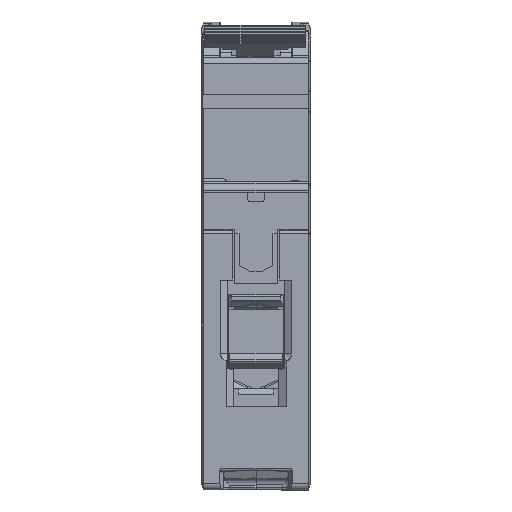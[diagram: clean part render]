
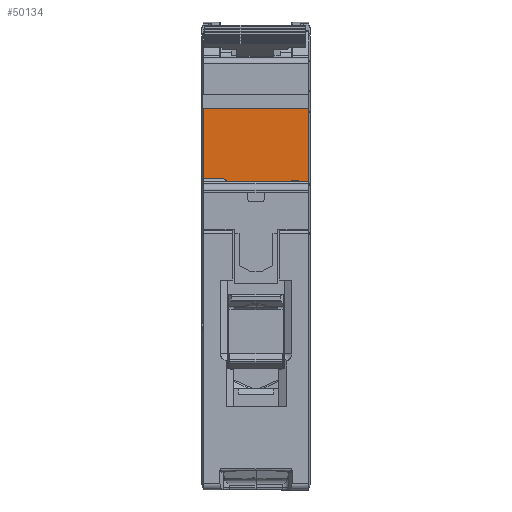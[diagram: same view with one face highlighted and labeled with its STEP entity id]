
A CAD part, front view. The second image highlights one B-rep face of the part: STEP entity #50134.
In plain terms, the highlighted planar face has unit normal (0, -1, 0).
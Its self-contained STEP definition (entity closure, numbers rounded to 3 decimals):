
#8226 = EDGE_CURVE ( 'NONE', #95120, #95126, #11020, .T. ) ;
#8237 = EDGE_CURVE ( 'NONE', #95147, #95150, #11080, .T. ) ;
#8243 = EDGE_CURVE ( 'NONE', #95150, #95117, #11130, .T. ) ;
#8245 = EDGE_CURVE ( 'NONE', #95117, #95168, #11142, .T. ) ;
#8246 = EDGE_CURVE ( 'NONE', #95168, #95159, #11183, .T. ) ;
#8251 = EDGE_CURVE ( 'NONE', #95126, #95186, #11215, .T. ) ;
#11020 = LINE ( 'NONE', #11024, #93108 ) ;
#11024 = CARTESIAN_POINT ( 'NONE',  ( -3.9, -7.255, 43.9 ) ) ;
#11026 = DIRECTION ( 'NONE',  ( 0.707, 0., 0.707 ) ) ;
#11080 = LINE ( 'NONE', #11083, #93109 ) ;
#11083 = CARTESIAN_POINT ( 'NONE',  ( 0.2, -7.255, 55.8 ) ) ;
#11085 = DIRECTION ( 'NONE',  ( -1., 0., 0. ) ) ;
#11130 = LINE ( 'NONE', #11134, #92801 ) ;
#11134 = CARTESIAN_POINT ( 'NONE',  ( -17.2, -7.255, 43.9 ) ) ;
#11136 = DIRECTION ( 'NONE',  ( 0., 0., -1. ) ) ;
#11142 = LINE ( 'NONE', #11176, #92894 ) ;
#11176 = CARTESIAN_POINT ( 'NONE',  ( 0.2, -7.255, 44.4 ) ) ;
#11181 = DIRECTION ( 'NONE',  ( 1., 0., 0. ) ) ;
#11183 = LINE ( 'NONE', #11186, #93113 ) ;
#11186 = CARTESIAN_POINT ( 'NONE',  ( -13.8, -7.255, 44.4 ) ) ;
#11187 = DIRECTION ( 'NONE',  ( 0.707, 0., -0.707 ) ) ;
#11215 = LINE ( 'NONE', #11218, #92915 ) ;
#11218 = CARTESIAN_POINT ( 'NONE',  ( 0.2, -7.255, 43.9 ) ) ;
#11220 = DIRECTION ( 'NONE',  ( 1., 0., 0. ) ) ;
#32628 = LINE ( 'NONE', #32631, #58904 ) ;
#32631 = CARTESIAN_POINT ( 'NONE',  ( -12.9, -7.255, 43.9 ) ) ;
#32633 = DIRECTION ( 'NONE',  ( 0., 0., -1. ) ) ;
#32721 = LINE ( 'NONE', #32755, #58938 ) ;
#32755 = CARTESIAN_POINT ( 'NONE',  ( -4.3, -7.255, 43.9 ) ) ;
#32759 = DIRECTION ( 'NONE',  ( 0., 0., 1. ) ) ;
#32775 = LINE ( 'NONE', #32778, #58949 ) ;
#32778 = CARTESIAN_POINT ( 'NONE',  ( 0., -7.255, 0. ) ) ;
#32780 = DIRECTION ( 'NONE',  ( 0., 0., -1. ) ) ;
#32782 = LINE ( 'NONE', #32785, #58951 ) ;
#32785 = CARTESIAN_POINT ( 'NONE',  ( 0.2, -7.255, 42.9 ) ) ;
#32787 = DIRECTION ( 'NONE',  ( -1., 0., 0. ) ) ;
#33027 = EDGE_LOOP ( 'NONE', ( #44939, #44941, #44943, #44945, #44947, #44949, #44951, #44952, #44954, #44956 ) ) ;
#33637 = VERTEX_POINT ( 'NONE', #48300 ) ;
#33644 = VERTEX_POINT ( 'NONE', #48307 ) ;
#44939 = ORIENTED_EDGE ( 'NONE', *, *, #8251, .T. ) ;
#44941 = ORIENTED_EDGE ( 'NONE', *, *, #47274, .F. ) ;
#44943 = ORIENTED_EDGE ( 'NONE', *, *, #8237, .T. ) ;
#44945 = ORIENTED_EDGE ( 'NONE', *, *, #8243, .T. ) ;
#44947 = ORIENTED_EDGE ( 'NONE', *, *, #8245, .T. ) ;
#44949 = ORIENTED_EDGE ( 'NONE', *, *, #8246, .T. ) ;
#44951 = ORIENTED_EDGE ( 'NONE', *, *, #47237, .T. ) ;
#44952 = ORIENTED_EDGE ( 'NONE', *, *, #47276, .F. ) ;
#44954 = ORIENTED_EDGE ( 'NONE', *, *, #47269, .T. ) ;
#44956 = ORIENTED_EDGE ( 'NONE', *, *, #8226, .T. ) ;
#47237 = EDGE_CURVE ( 'NONE', #95159, #33644, #32628, .T. ) ;
#47269 = EDGE_CURVE ( 'NONE', #33637, #95120, #32721, .T. ) ;
#47274 = EDGE_CURVE ( 'NONE', #95147, #95186, #32775, .T. ) ;
#47276 = EDGE_CURVE ( 'NONE', #33637, #33644, #32782, .T. ) ;
#48300 = CARTESIAN_POINT ( 'NONE',  ( -4.3, -7.255, 42.9 ) ) ;
#48307 = CARTESIAN_POINT ( 'NONE',  ( -12.9, -7.255, 42.9 ) ) ;
#50134 = ADVANCED_FACE ( 'NONE', ( #78295 ), #78280, .T. ) ;
#58904 = VECTOR ( 'NONE', #32633, 1000. ) ;
#58938 = VECTOR ( 'NONE', #32759, 1000. ) ;
#58949 = VECTOR ( 'NONE', #32780, 1000. ) ;
#58951 = VECTOR ( 'NONE', #32787, 1000. ) ;
#77067 = AXIS2_PLACEMENT_3D ( 'NONE', #78305, #78306, #78307 ) ;
#78280 = PLANE ( 'NONE',  #77067 ) ;
#78295 = FACE_OUTER_BOUND ( 'NONE', #33027, .T. ) ;
#78305 = CARTESIAN_POINT ( 'NONE',  ( 0.2, -7.255, 43.9 ) ) ;
#78306 = DIRECTION ( 'NONE',  ( 0., -1., 0. ) ) ;
#78307 = DIRECTION ( 'NONE',  ( 1., 0., 0. ) ) ;
#80124 = CARTESIAN_POINT ( 'NONE',  ( -17.2, -7.255, 44.4 ) ) ;
#80125 = CARTESIAN_POINT ( 'NONE',  ( -4.3, -7.255, 43.5 ) ) ;
#80127 = CARTESIAN_POINT ( 'NONE',  ( -3.9, -7.255, 43.9 ) ) ;
#80134 = CARTESIAN_POINT ( 'NONE',  ( 0., -7.255, 55.8 ) ) ;
#80135 = CARTESIAN_POINT ( 'NONE',  ( -17.2, -7.255, 55.8 ) ) ;
#80138 = CARTESIAN_POINT ( 'NONE',  ( -12.9, -7.255, 43.5 ) ) ;
#80141 = CARTESIAN_POINT ( 'NONE',  ( -13.8, -7.255, 44.4 ) ) ;
#80142 = CARTESIAN_POINT ( 'NONE',  ( 0., -7.255, 43.9 ) ) ;
#92801 = VECTOR ( 'NONE', #11136, 1000. ) ;
#92894 = VECTOR ( 'NONE', #11181, 1000. ) ;
#92915 = VECTOR ( 'NONE', #11220, 1000. ) ;
#93108 = VECTOR ( 'NONE', #11026, 1000. ) ;
#93109 = VECTOR ( 'NONE', #11085, 1000. ) ;
#93113 = VECTOR ( 'NONE', #11187, 1000. ) ;
#95117 = VERTEX_POINT ( 'NONE', #80124 ) ;
#95120 = VERTEX_POINT ( 'NONE', #80125 ) ;
#95126 = VERTEX_POINT ( 'NONE', #80127 ) ;
#95147 = VERTEX_POINT ( 'NONE', #80134 ) ;
#95150 = VERTEX_POINT ( 'NONE', #80135 ) ;
#95159 = VERTEX_POINT ( 'NONE', #80138 ) ;
#95168 = VERTEX_POINT ( 'NONE', #80141 ) ;
#95186 = VERTEX_POINT ( 'NONE', #80142 ) ;
